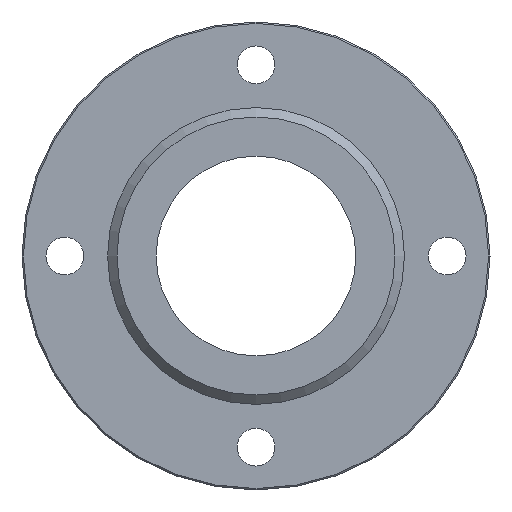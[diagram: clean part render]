
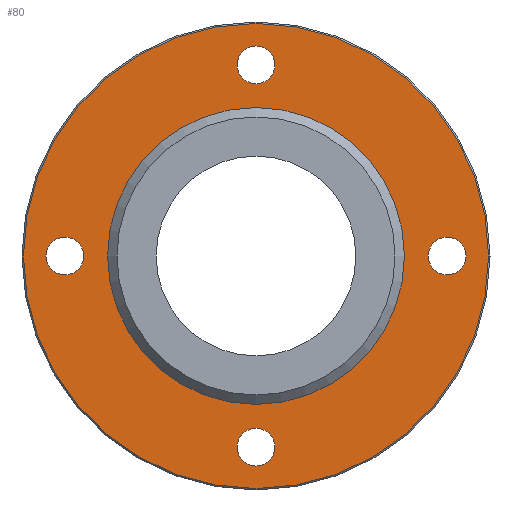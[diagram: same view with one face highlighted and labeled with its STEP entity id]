
A CAD part, left-side view. The second image highlights one B-rep face of the part: STEP entity #80.
In plain terms, the highlighted planar face has unit normal (-1, 0, 0).
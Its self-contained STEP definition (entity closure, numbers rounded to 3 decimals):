
#80=ADVANCED_FACE('',(#116,#117,#118,#119,#120,#121),#122,.F.);
#116=FACE_BOUND('',#187,.T.);
#117=FACE_BOUND('',#188,.T.);
#118=FACE_BOUND('',#189,.T.);
#119=FACE_BOUND('',#190,.T.);
#120=FACE_BOUND('',#191,.T.);
#121=FACE_OUTER_BOUND('',#192,.T.);
#122=PLANE('',#193);
#187=EDGE_LOOP('',(#268));
#188=EDGE_LOOP('',(#269));
#189=EDGE_LOOP('',(#270));
#190=EDGE_LOOP('',(#271));
#191=EDGE_LOOP('',(#272));
#192=EDGE_LOOP('',(#273));
#193=AXIS2_PLACEMENT_3D('',#274,#275,#276);
#268=ORIENTED_EDGE('',*,*,#363,.T.);
#269=ORIENTED_EDGE('',*,*,#364,.T.);
#270=ORIENTED_EDGE('',*,*,#365,.T.);
#271=ORIENTED_EDGE('',*,*,#366,.T.);
#272=ORIENTED_EDGE('',*,*,#362,.T.);
#273=ORIENTED_EDGE('',*,*,#367,.T.);
#274=CARTESIAN_POINT('',(-14.0,40.746,0.0));
#275=DIRECTION('',(1.0,0.0,0.0));
#276=DIRECTION('',(0.0,0.0,-1.0));
#362=EDGE_CURVE('',#397,#397,#398,.T.);
#363=EDGE_CURVE('',#399,#399,#400,.T.);
#364=EDGE_CURVE('',#401,#401,#402,.T.);
#365=EDGE_CURVE('',#403,#403,#404,.T.);
#366=EDGE_CURVE('',#405,#405,#406,.T.);
#367=EDGE_CURVE('',#407,#407,#408,.T.);
#397=VERTEX_POINT('',#447);
#398=CIRCLE('',#448,3.3);
#399=VERTEX_POINT('',#449);
#400=CIRCLE('',#450,26.0);
#401=VERTEX_POINT('',#451);
#402=CIRCLE('',#452,3.3);
#403=VERTEX_POINT('',#453);
#404=CIRCLE('',#454,3.3);
#405=VERTEX_POINT('',#455);
#406=CIRCLE('',#456,3.3);
#407=VERTEX_POINT('',#457);
#408=CIRCLE('',#458,40.746);
#447=CARTESIAN_POINT('',(-14.0,33.5,-3.3));
#448=AXIS2_PLACEMENT_3D('',#507,#508,#509);
#449=CARTESIAN_POINT('',(-14.0,0.,-26.0));
#450=AXIS2_PLACEMENT_3D('',#510,#511,#512);
#451=CARTESIAN_POINT('',(-14.0,0.0,30.2));
#452=AXIS2_PLACEMENT_3D('',#513,#514,#515);
#453=CARTESIAN_POINT('',(-14.0,-33.5,-3.3));
#454=AXIS2_PLACEMENT_3D('',#516,#517,#518);
#455=CARTESIAN_POINT('',(-14.0,0.0,-36.8));
#456=AXIS2_PLACEMENT_3D('',#519,#520,#521);
#457=CARTESIAN_POINT('',(-14.0,0.,40.746));
#458=AXIS2_PLACEMENT_3D('',#522,#523,#524);
#507=CARTESIAN_POINT('',(-14.0,33.5,0.0));
#508=DIRECTION('',(1.0,0.0,0.0));
#509=DIRECTION('',(0.0,0.0,-1.0));
#510=CARTESIAN_POINT('',(-14.0,0.,0.0));
#511=DIRECTION('',(1.0,0.0,0.0));
#512=DIRECTION('',(0.0,0.0,-1.0));
#513=CARTESIAN_POINT('',(-14.0,0.0,33.5));
#514=DIRECTION('',(1.0,0.0,0.0));
#515=DIRECTION('',(0.0,0.0,-1.0));
#516=CARTESIAN_POINT('',(-14.0,-33.5,0.0));
#517=DIRECTION('',(1.0,0.0,0.0));
#518=DIRECTION('',(0.0,0.0,-1.0));
#519=CARTESIAN_POINT('',(-14.0,0.0,-33.5));
#520=DIRECTION('',(1.0,0.0,0.0));
#521=DIRECTION('',(0.0,0.0,-1.0));
#522=CARTESIAN_POINT('',(-14.0,0.,0.0));
#523=DIRECTION('',(-1.0,0.0,0.0));
#524=DIRECTION('',(0.0,0.0,1.0));
